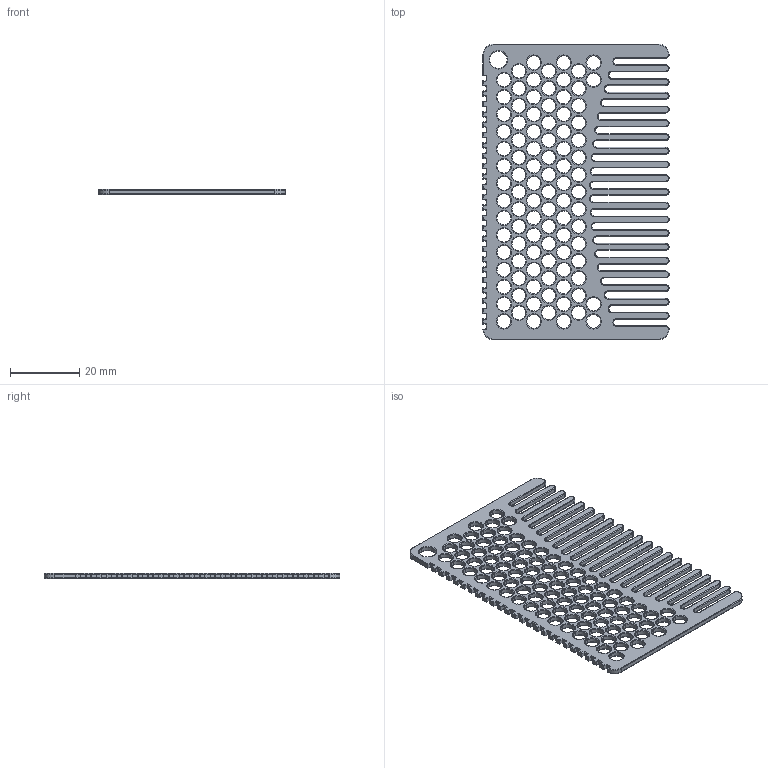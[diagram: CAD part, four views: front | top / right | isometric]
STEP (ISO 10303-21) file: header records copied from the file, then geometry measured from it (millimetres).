
FILE_DESCRIPTION (( 'STEP AP214' ), '1' );
FILE_NAME ('Credit Card Comb_3.STEP', '2023-07-21T14:39:52', ( '' ), ( '' ), 'SwSTEP 2.0', 'SolidWorks 2018', '' );
FILE_SCHEMA (( 'AUTOMOTIVE_DESIGN' ));
Length unit declared in the file: millimetre
Products named in the file (1): Credit Card Comb_3
Bounding box: 53.98 x 85.6 x 1.5 mm (x, y, z)
Volume: 3777.2 mm3; surface area: 8177.8 mm2
Topology: 1 solids, 1 shells, 1208 faces, 2814 edges, 1608 vertices
Faces by surface type: cylinder 545, torus 518, plane 145
Entity records: 34730 total; most frequent: DIRECTION 6590, CARTESIAN_POINT 6437, ORIENTED_EDGE 5628, EDGE_CURVE 2814, AXIS2_PLACEMENT_3D 2809, VERTEX_POINT 1608, CIRCLE 1600, EDGE_LOOP 1402
